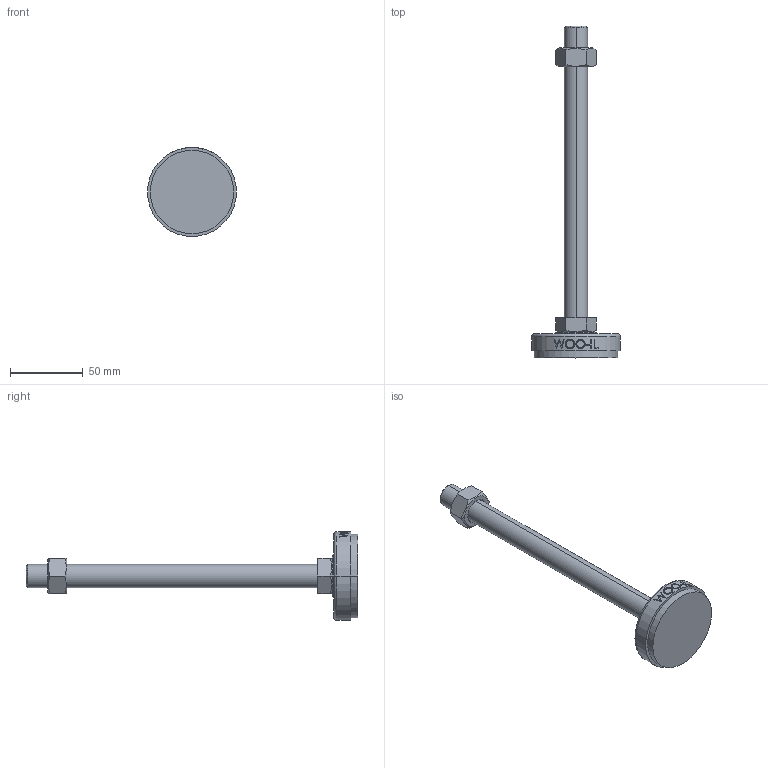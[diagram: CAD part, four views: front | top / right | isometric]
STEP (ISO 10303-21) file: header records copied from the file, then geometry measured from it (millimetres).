
FILE_DESCRIPTION (( 'STEP AP214' ), '1' );
FILE_NAME ('NS61-M16-200.step', '2021-01-11T05:45:57', ( '' ), ( '' ), 'SwSTEP 2.0', 'SolidWorks 2019', '' );
FILE_SCHEMA (( 'AUTOMOTIVE_DESIGN' ));
Length unit declared in the file: millimetre
Products named in the file (2): NS61-M16-200
Bounding box: 61 x 227.5 x 61 mm (x, y, z)
Volume: 95723.9 mm3; surface area: 22907.5 mm2
Topology: 3 solids, 3 shells, 96 faces, 223 edges, 144 vertices
Faces by surface type: plane 48, cylinder 18, bspline 16, cone 12, torus 2
Entity records: 4252 total; most frequent: CARTESIAN_POINT 2127, ORIENTED_EDGE 446, DIRECTION 381, EDGE_CURVE 223, VERTEX_POINT 144, AXIS2_PLACEMENT_3D 142, EDGE_LOOP 109, LINE 97
